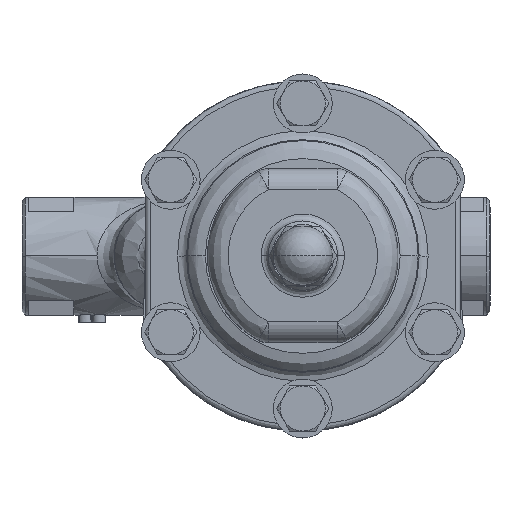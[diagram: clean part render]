
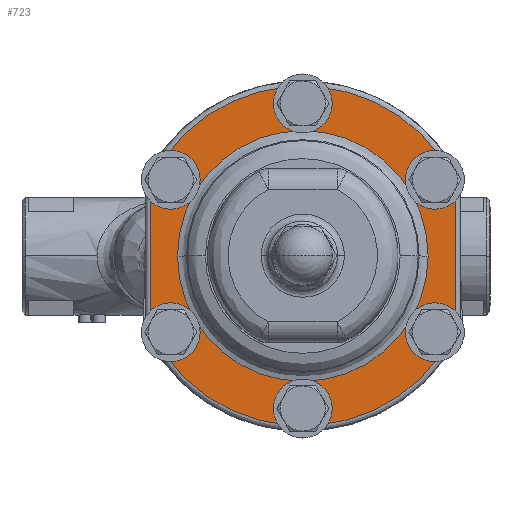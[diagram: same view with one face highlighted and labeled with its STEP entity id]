
A CAD part, top view. The second image highlights one B-rep face of the part: STEP entity #723.
In plain terms, the highlighted planar face has unit normal (0, 0, 1).
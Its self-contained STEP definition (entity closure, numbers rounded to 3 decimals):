
#723=ADVANCED_FACE('',(#3950,#3951,#3952,#3953,#3954,#3955,#3956,#3957),#3949,.F.);
#3949=PLANE('',#10223);
#3950=FACE_OUTER_BOUND('',#10224,.T.);
#3951=FACE_BOUND('',#10225,.T.);
#3952=FACE_BOUND('',#10226,.T.);
#3953=FACE_BOUND('',#10227,.T.);
#3954=FACE_BOUND('',#10228,.T.);
#3955=FACE_BOUND('',#10229,.T.);
#3956=FACE_BOUND('',#10230,.T.);
#3957=FACE_BOUND('',#10231,.T.);
#10220=CARTESIAN_POINT('',(52.8,-58.8,7.));
#10221=DIRECTION('',(0.,0.,-1.));
#10222=DIRECTION('',(-1.,0.,0.));
#10223=AXIS2_PLACEMENT_3D('',#10220,#10221,#10222);
#10224=EDGE_LOOP('',(#13387,#13388,#13389,#13390));
#10225=EDGE_LOOP('',(#13391,#13392));
#10226=EDGE_LOOP('',(#13393,#13394));
#10227=EDGE_LOOP('',(#13395,#13396));
#10228=EDGE_LOOP('',(#13397,#13398));
#10229=EDGE_LOOP('',(#13399,#13400));
#10230=EDGE_LOOP('',(#13401,#13402));
#10231=EDGE_LOOP('',(#13403,#13404));
#13387=ORIENTED_EDGE('',*,*,#14980,.F.);
#13388=ORIENTED_EDGE('',*,*,#14982,.T.);
#13389=ORIENTED_EDGE('',*,*,#14983,.F.);
#13390=ORIENTED_EDGE('',*,*,#14984,.T.);
#13391=ORIENTED_EDGE('',*,*,#14985,.T.);
#13392=ORIENTED_EDGE('',*,*,#14986,.T.);
#13393=ORIENTED_EDGE('',*,*,#14987,.T.);
#13394=ORIENTED_EDGE('',*,*,#14988,.T.);
#13395=ORIENTED_EDGE('',*,*,#14989,.T.);
#13396=ORIENTED_EDGE('',*,*,#14990,.T.);
#13397=ORIENTED_EDGE('',*,*,#14991,.T.);
#13398=ORIENTED_EDGE('',*,*,#14992,.T.);
#13399=ORIENTED_EDGE('',*,*,#14993,.T.);
#13400=ORIENTED_EDGE('',*,*,#14994,.T.);
#13401=ORIENTED_EDGE('',*,*,#14995,.T.);
#13402=ORIENTED_EDGE('',*,*,#14996,.T.);
#13403=ORIENTED_EDGE('',*,*,#14997,.T.);
#13404=ORIENTED_EDGE('',*,*,#14998,.T.);
#14980=EDGE_CURVE('',#20742,#20749,#20750,.T.);
#14982=EDGE_CURVE('',#20742,#20762,#20763,.T.);
#14983=EDGE_CURVE('',#20769,#20762,#20770,.T.);
#14984=EDGE_CURVE('',#20769,#20749,#20776,.T.);
#14985=EDGE_CURVE('',#20782,#20783,#20784,.T.);
#14986=EDGE_CURVE('',#20783,#20782,#20790,.T.);
#14987=EDGE_CURVE('',#20796,#20797,#20798,.T.);
#14988=EDGE_CURVE('',#20797,#20796,#20804,.T.);
#14989=EDGE_CURVE('',#20810,#20811,#20812,.T.);
#14990=EDGE_CURVE('',#20811,#20810,#20818,.T.);
#14991=EDGE_CURVE('',#20824,#20825,#20826,.T.);
#14992=EDGE_CURVE('',#20825,#20824,#20832,.T.);
#14993=EDGE_CURVE('',#20838,#20839,#20840,.T.);
#14994=EDGE_CURVE('',#20839,#20838,#20846,.T.);
#14995=EDGE_CURVE('',#20852,#20853,#20854,.T.);
#14996=EDGE_CURVE('',#20853,#20852,#20860,.T.);
#14997=EDGE_CURVE('',#20866,#20867,#20868,.T.);
#14998=EDGE_CURVE('',#20867,#20866,#20874,.T.);
#20742=VERTEX_POINT('',#29485);
#20749=VERTEX_POINT('',#29490);
#20750=CIRCLE('',#29494,49.);
#20762=VERTEX_POINT('',#29499);
#20763=LINE('',#29500,#29501);
#20769=VERTEX_POINT('',#29503);
#20770=CIRCLE('',#29507,49.);
#20776=LINE('',#29508,#29509);
#20782=VERTEX_POINT('',#29511);
#20783=VERTEX_POINT('',#29512);
#20784=CIRCLE('',#29516,3.5);
#20790=CIRCLE('',#29520,3.5);
#20796=VERTEX_POINT('',#29521);
#20797=VERTEX_POINT('',#29522);
#20798=CIRCLE('',#29526,3.5);
#20804=CIRCLE('',#29530,3.5);
#20810=VERTEX_POINT('',#29531);
#20811=VERTEX_POINT('',#29532);
#20812=CIRCLE('',#29536,3.5);
#20818=CIRCLE('',#29540,3.5);
#20824=VERTEX_POINT('',#29541);
#20825=VERTEX_POINT('',#29542);
#20826=CIRCLE('',#29546,3.5);
#20832=CIRCLE('',#29550,3.5);
#20838=VERTEX_POINT('',#29551);
#20839=VERTEX_POINT('',#29552);
#20840=CIRCLE('',#29556,3.5);
#20846=CIRCLE('',#29560,3.5);
#20852=VERTEX_POINT('',#29561);
#20853=VERTEX_POINT('',#29562);
#20854=CIRCLE('',#29566,36.155);
#20860=CIRCLE('',#29570,36.155);
#20866=VERTEX_POINT('',#29571);
#20867=VERTEX_POINT('',#29572);
#20868=CIRCLE('',#29576,3.5);
#20874=CIRCLE('',#29580,3.5);
#29485=CARTESIAN_POINT('',(44.,-21.564,7.));
#29490=CARTESIAN_POINT('',(-44.,-21.564,7.));
#29491=CARTESIAN_POINT('',(0.,0.,7.));
#29492=DIRECTION('',(0.,0.,-1.));
#29493=DIRECTION('',(1.,0.,0.));
#29494=AXIS2_PLACEMENT_3D('',#29491,#29492,#29493);
#29499=CARTESIAN_POINT('',(44.,21.564,7.));
#29500=CARTESIAN_POINT('',(44.,-21.564,7.));
#29501=VECTOR('',#29502,43.128);
#29502=DIRECTION('',(0.,1.,0.));
#29503=CARTESIAN_POINT('',(-44.,21.564,7.));
#29504=CARTESIAN_POINT('',(0.,0.,7.));
#29505=DIRECTION('',(0.,0.,-1.));
#29506=DIRECTION('',(1.,0.,0.));
#29507=AXIS2_PLACEMENT_3D('',#29504,#29505,#29506);
#29508=CARTESIAN_POINT('',(-44.,21.564,7.));
#29509=VECTOR('',#29510,43.128);
#29510=DIRECTION('',(0.,-1.,0.));
#29511=CARTESIAN_POINT('',(41.605,22.,7.));
#29512=CARTESIAN_POINT('',(34.605,22.,7.));
#29513=CARTESIAN_POINT('',(38.105,22.,7.));
#29514=DIRECTION('',(0.,0.,-1.));
#29515=DIRECTION('',(1.,0.,0.));
#29516=AXIS2_PLACEMENT_3D('',#29513,#29514,#29515);
#29517=CARTESIAN_POINT('',(38.105,22.,7.));
#29518=DIRECTION('',(0.,0.,-1.));
#29519=DIRECTION('',(1.,0.,0.));
#29520=AXIS2_PLACEMENT_3D('',#29517,#29518,#29519);
#29521=CARTESIAN_POINT('',(-34.605,22.,7.));
#29522=CARTESIAN_POINT('',(-41.605,22.,7.));
#29523=CARTESIAN_POINT('',(-38.105,22.,7.));
#29524=DIRECTION('',(0.,0.,-1.));
#29525=DIRECTION('',(1.,0.,0.));
#29526=AXIS2_PLACEMENT_3D('',#29523,#29524,#29525);
#29527=CARTESIAN_POINT('',(-38.105,22.,7.));
#29528=DIRECTION('',(0.,0.,-1.));
#29529=DIRECTION('',(1.,0.,0.));
#29530=AXIS2_PLACEMENT_3D('',#29527,#29528,#29529);
#29531=CARTESIAN_POINT('',(-34.605,-22.,7.));
#29532=CARTESIAN_POINT('',(-41.605,-22.,7.));
#29533=CARTESIAN_POINT('',(-38.105,-22.,7.));
#29534=DIRECTION('',(0.,0.,-1.));
#29535=DIRECTION('',(1.,0.,0.));
#29536=AXIS2_PLACEMENT_3D('',#29533,#29534,#29535);
#29537=CARTESIAN_POINT('',(-38.105,-22.,7.));
#29538=DIRECTION('',(0.,0.,-1.));
#29539=DIRECTION('',(1.,0.,0.));
#29540=AXIS2_PLACEMENT_3D('',#29537,#29538,#29539);
#29541=CARTESIAN_POINT('',(41.605,-22.,7.));
#29542=CARTESIAN_POINT('',(34.605,-22.,7.));
#29543=CARTESIAN_POINT('',(38.105,-22.,7.));
#29544=DIRECTION('',(0.,0.,-1.));
#29545=DIRECTION('',(1.,0.,0.));
#29546=AXIS2_PLACEMENT_3D('',#29543,#29544,#29545);
#29547=CARTESIAN_POINT('',(38.105,-22.,7.));
#29548=DIRECTION('',(0.,0.,-1.));
#29549=DIRECTION('',(1.,0.,0.));
#29550=AXIS2_PLACEMENT_3D('',#29547,#29548,#29549);
#29551=CARTESIAN_POINT('',(3.5,-44.,7.));
#29552=CARTESIAN_POINT('',(-3.5,-44.,7.));
#29553=CARTESIAN_POINT('',(0.,-44.,7.));
#29554=DIRECTION('',(0.,0.,-1.));
#29555=DIRECTION('',(1.,0.,0.));
#29556=AXIS2_PLACEMENT_3D('',#29553,#29554,#29555);
#29557=CARTESIAN_POINT('',(0.,-44.,7.));
#29558=DIRECTION('',(0.,0.,-1.));
#29559=DIRECTION('',(1.,0.,0.));
#29560=AXIS2_PLACEMENT_3D('',#29557,#29558,#29559);
#29561=CARTESIAN_POINT('',(-36.155,0.,7.));
#29562=CARTESIAN_POINT('',(36.155,0.,7.));
#29563=CARTESIAN_POINT('',(0.,0.,7.));
#29564=DIRECTION('',(0.,0.,-1.));
#29565=DIRECTION('',(-1.,0.,0.));
#29566=AXIS2_PLACEMENT_3D('',#29563,#29564,#29565);
#29567=CARTESIAN_POINT('',(0.,0.,7.));
#29568=DIRECTION('',(0.,0.,-1.));
#29569=DIRECTION('',(-1.,0.,0.));
#29570=AXIS2_PLACEMENT_3D('',#29567,#29568,#29569);
#29571=CARTESIAN_POINT('',(3.5,44.,7.));
#29572=CARTESIAN_POINT('',(-3.5,44.,7.));
#29573=CARTESIAN_POINT('',(0.,44.,7.));
#29574=DIRECTION('',(0.,0.,-1.));
#29575=DIRECTION('',(1.,0.,0.));
#29576=AXIS2_PLACEMENT_3D('',#29573,#29574,#29575);
#29577=CARTESIAN_POINT('',(0.,44.,7.));
#29578=DIRECTION('',(0.,0.,-1.));
#29579=DIRECTION('',(1.,0.,0.));
#29580=AXIS2_PLACEMENT_3D('',#29577,#29578,#29579);
